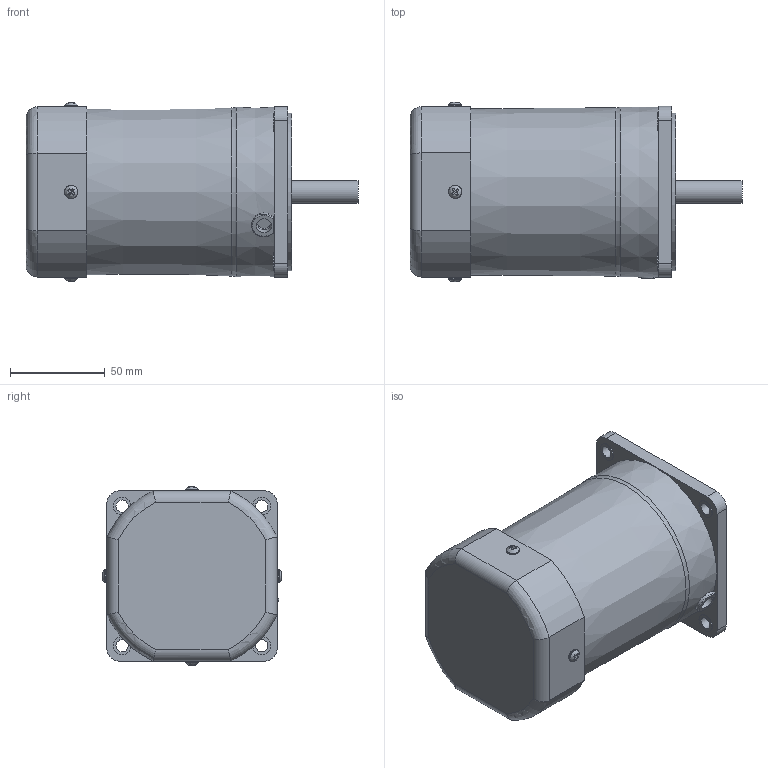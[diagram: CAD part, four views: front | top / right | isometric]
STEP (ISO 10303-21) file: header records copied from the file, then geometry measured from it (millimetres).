
FILE_DESCRIPTION((''),'2;1');
FILE_NAME('D:\STP파일\150W MOTOR\S9I150S.stp','2013-05-20T18:51:44',('leebh'),(''),'Autodesk Inventor 2011','Autodesk Inventor 2011','');
FILE_SCHEMA(('AUTOMOTIVE_DESIGN { 1 0 10303 214 1 1 1 1 }'));
Length unit declared in the file: millimetre
Products named in the file (1): S9I90G-T1
Bounding box: 174.8 x 94.6 x 94.14 mm (x, y, z)
Volume: 884438.5 mm3; surface area: 61983.5 mm2
Topology: 1 solids, 3 shells, 163 faces, 408 edges, 266 vertices
Faces by surface type: plane 100, cylinder 42, torus 14, bspline 4, cone 3
Full cylindrical faces by diameter (mm): 4 x1, 6.5 x4, 7 x4, 8 x1, 9.5 x4, 10 x1, 12 x1, 40 x1, 83 x1
Entity records: 5113 total; most frequent: CARTESIAN_POINT 1362, ORIENTED_EDGE 720, DIRECTION 716, EDGE_CURVE 360, AXIS2_PLACEMENT_3D 257, VERTEX_POINT 253, EDGE_LOOP 225, VECTOR 202
